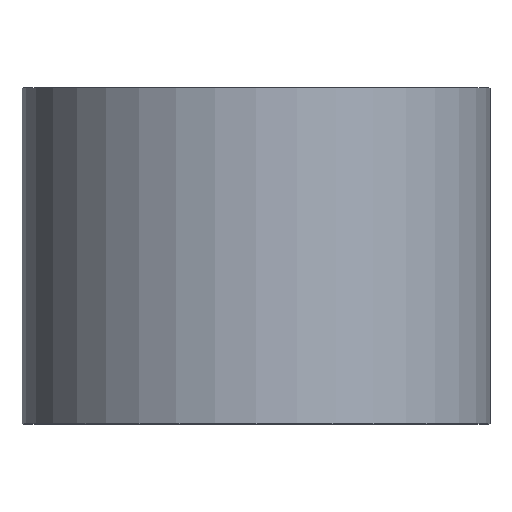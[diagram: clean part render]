
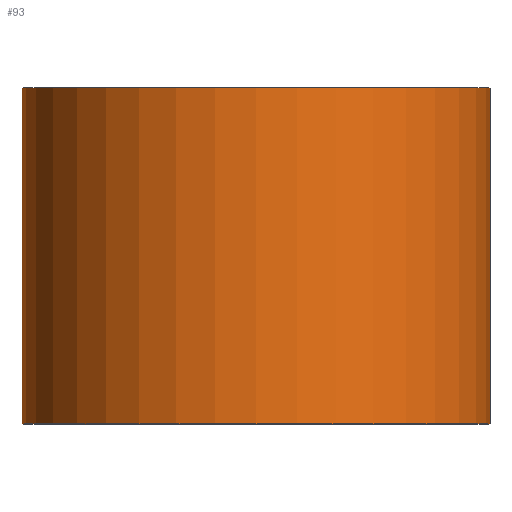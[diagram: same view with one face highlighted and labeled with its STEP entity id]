
A CAD part, top view. The second image highlights one B-rep face of the part: STEP entity #93.
In plain terms, the highlighted cylindrical face has radius 4.875 mm (diameter 9.75 mm), a full revolution.
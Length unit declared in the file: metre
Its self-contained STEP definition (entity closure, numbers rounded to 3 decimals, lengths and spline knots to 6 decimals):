
#12=CYLINDRICAL_SURFACE('',#117,0.004875);
#19=ORIENTED_EDGE('',*,*,#35,.T.);
#20=ORIENTED_EDGE('',*,*,#34,.F.);
#34=EDGE_CURVE('',#42,#42,#50,.T.);
#35=EDGE_CURVE('',#43,#43,#51,.T.);
#42=VERTEX_POINT('',#170);
#43=VERTEX_POINT('',#173);
#50=CIRCLE('',#116,0.004875);
#51=CIRCLE('',#118,0.004875);
#59=EDGE_LOOP('',(#19));
#60=EDGE_LOOP('',(#20));
#75=FACE_BOUND('',#59,.T.);
#76=FACE_BOUND('',#60,.T.);
#93=ADVANCED_FACE('',(#75,#76),#12,.T.);
#116=AXIS2_PLACEMENT_3D('',#169,#137,#138);
#117=AXIS2_PLACEMENT_3D('',#171,#139,#140);
#118=AXIS2_PLACEMENT_3D('',#172,#141,#142);
#137=DIRECTION('',(0.,1.,0.));
#138=DIRECTION('',(1.,0.,0.));
#139=DIRECTION('',(0.,1.,0.));
#140=DIRECTION('',(1.,0.,0.));
#141=DIRECTION('',(0.,1.,0.));
#142=DIRECTION('',(1.,0.,0.));
#169=CARTESIAN_POINT('',(0.,0.0035,0.));
#170=CARTESIAN_POINT('',(0.004875,0.0035,0.));
#171=CARTESIAN_POINT('',(0.,-0.0035,0.));
#172=CARTESIAN_POINT('',(0.,-0.0035,0.));
#173=CARTESIAN_POINT('',(0.004875,-0.0035,0.));
